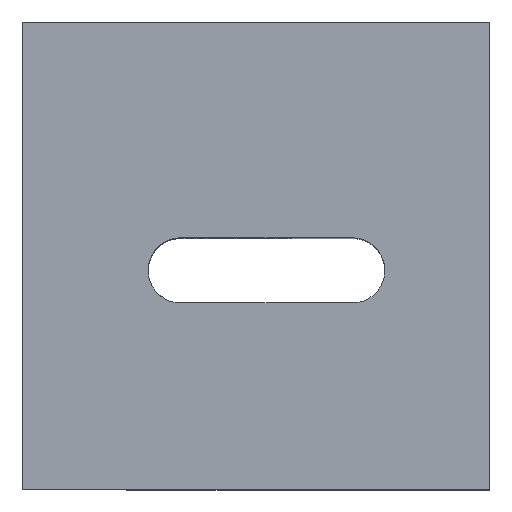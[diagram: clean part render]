
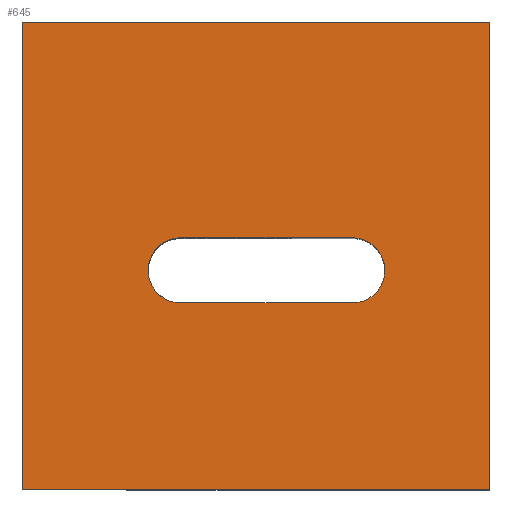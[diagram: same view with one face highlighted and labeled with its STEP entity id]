
A CAD part, top view. The second image highlights one B-rep face of the part: STEP entity #645.
In plain terms, the highlighted planar face has unit normal (0, 0, 1).
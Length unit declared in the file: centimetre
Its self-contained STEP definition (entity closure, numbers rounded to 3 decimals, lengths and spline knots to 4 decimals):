
#16 = VERTEX_POINT ( 'NONE', #240 ) ;
#29 = EDGE_CURVE ( 'NONE', #979, #16, #953, .T. ) ;
#46 = EDGE_LOOP ( 'NONE', ( #557, #728, #747, #228 ) ) ;
#50 = AXIS2_PLACEMENT_3D ( 'NONE', #554, #971, #1279 ) ;
#51 = FACE_BOUND ( 'NONE', #279, .T. ) ;
#66 = DIRECTION ( 'NONE',  ( -1., 0., 0. ) ) ;
#99 = LINE ( 'NONE', #404, #441 ) ;
#115 = VERTEX_POINT ( 'NONE', #834 ) ;
#143 = DIRECTION ( 'NONE',  ( 1., 0., 0. ) ) ;
#149 = CARTESIAN_POINT ( 'NONE',  ( 338.8759, 398.5396, 1000. ) ) ;
#157 = VECTOR ( 'NONE', #1274, 100. ) ;
#162 = DIRECTION ( 'NONE',  ( 0., 0., 1. ) ) ;
#176 = CARTESIAN_POINT ( 'NONE',  ( 706.0866, 398.5396, 1000. ) ) ;
#210 = CIRCLE ( 'NONE', #504, 69.8492 ) ;
#226 = EDGE_CURVE ( 'NONE', #851, #115, #637, .T. ) ;
#228 = ORIENTED_EDGE ( 'NONE', *, *, #226, .T. ) ;
#240 = CARTESIAN_POINT ( 'NONE',  ( 1000., 0., 1000. ) ) ;
#279 = EDGE_LOOP ( 'NONE', ( #361, #1135, #735, #895, #1247 ) ) ;
#308 = VECTOR ( 'NONE', #810, 100. ) ;
#312 = VECTOR ( 'NONE', #375, 100. ) ;
#361 = ORIENTED_EDGE ( 'NONE', *, *, #701, .T. ) ;
#367 = LINE ( 'NONE', #149, #1256 ) ;
#371 = AXIS2_PLACEMENT_3D ( 'NONE', #657, #651, #143 ) ;
#375 = DIRECTION ( 'NONE',  ( 1., 0., 0. ) ) ;
#400 = CARTESIAN_POINT ( 'NONE',  ( 0., 1000., 1000. ) ) ;
#404 = CARTESIAN_POINT ( 'NONE',  ( 1000., 1000., 1000. ) ) ;
#440 = CIRCLE ( 'NONE', #50, 69.8492 ) ;
#441 = VECTOR ( 'NONE', #1007, 100. ) ;
#444 = CARTESIAN_POINT ( 'NONE',  ( 0., 0., 1000. ) ) ;
#450 = EDGE_CURVE ( 'NONE', #115, #979, #1324, .T. ) ;
#481 = CIRCLE ( 'NONE', #371, 69.8492 ) ;
#504 = AXIS2_PLACEMENT_3D ( 'NONE', #1080, #974, #1289 ) ;
#506 = CARTESIAN_POINT ( 'NONE',  ( 269.0267, 468.3888, 1000. ) ) ;
#554 = CARTESIAN_POINT ( 'NONE',  ( 338.8759, 468.3888, 1000. ) ) ;
#557 = ORIENTED_EDGE ( 'NONE', *, *, #450, .T. ) ;
#565 = AXIS2_PLACEMENT_3D ( 'NONE', #1068, #162, #567 ) ;
#567 = DIRECTION ( 'NONE',  ( 1., 0., 0. ) ) ;
#621 = VERTEX_POINT ( 'NONE', #1064 ) ;
#637 = LINE ( 'NONE', #919, #1014 ) ;
#645 = ADVANCED_FACE ( 'NONE', ( #51, #1179 ), #671, .T. ) ;
#651 = DIRECTION ( 'NONE',  ( 0., 0., -1. ) ) ;
#653 = EDGE_CURVE ( 'NONE', #920, #1187, #210, .T. ) ;
#657 = CARTESIAN_POINT ( 'NONE',  ( 338.8759, 468.3888, 1000. ) ) ;
#671 = PLANE ( 'NONE',  #565 ) ;
#698 = EDGE_CURVE ( 'NONE', #1187, #750, #367, .T. ) ;
#701 = EDGE_CURVE ( 'NONE', #750, #1021, #440, .T. ) ;
#727 = CARTESIAN_POINT ( 'NONE',  ( 706.0866, 538.238, 1000. ) ) ;
#728 = ORIENTED_EDGE ( 'NONE', *, *, #29, .T. ) ;
#735 = ORIENTED_EDGE ( 'NONE', *, *, #1061, .T. ) ;
#747 = ORIENTED_EDGE ( 'NONE', *, *, #1011, .T. ) ;
#750 = VERTEX_POINT ( 'NONE', #958 ) ;
#789 = EDGE_CURVE ( 'NONE', #1021, #621, #481, .T. ) ;
#810 = DIRECTION ( 'NONE',  ( 0., -1., 0. ) ) ;
#834 = CARTESIAN_POINT ( 'NONE',  ( 0., 1000., 1000. ) ) ;
#851 = VERTEX_POINT ( 'NONE', #1102 ) ;
#881 = LINE ( 'NONE', #1299, #312 ) ;
#895 = ORIENTED_EDGE ( 'NONE', *, *, #653, .T. ) ;
#908 = CARTESIAN_POINT ( 'NONE',  ( 0., 0., 1000. ) ) ;
#919 = CARTESIAN_POINT ( 'NONE',  ( 0., 1000., 1000. ) ) ;
#920 = VERTEX_POINT ( 'NONE', #727 ) ;
#953 = LINE ( 'NONE', #444, #157 ) ;
#958 = CARTESIAN_POINT ( 'NONE',  ( 338.8759, 398.5396, 1000. ) ) ;
#971 = DIRECTION ( 'NONE',  ( 0., 0., -1. ) ) ;
#974 = DIRECTION ( 'NONE',  ( 0., 0., -1. ) ) ;
#979 = VERTEX_POINT ( 'NONE', #908 ) ;
#1007 = DIRECTION ( 'NONE',  ( 0., 1., 0. ) ) ;
#1011 = EDGE_CURVE ( 'NONE', #16, #851, #99, .T. ) ;
#1014 = VECTOR ( 'NONE', #1043, 100. ) ;
#1021 = VERTEX_POINT ( 'NONE', #506 ) ;
#1043 = DIRECTION ( 'NONE',  ( -1., 0., 0. ) ) ;
#1061 = EDGE_CURVE ( 'NONE', #621, #920, #881, .T. ) ;
#1064 = CARTESIAN_POINT ( 'NONE',  ( 338.8759, 538.238, 1000. ) ) ;
#1068 = CARTESIAN_POINT ( 'NONE',  ( 0., 0., 1000. ) ) ;
#1080 = CARTESIAN_POINT ( 'NONE',  ( 706.0866, 468.3888, 1000. ) ) ;
#1102 = CARTESIAN_POINT ( 'NONE',  ( 1000., 1000., 1000. ) ) ;
#1135 = ORIENTED_EDGE ( 'NONE', *, *, #789, .T. ) ;
#1179 = FACE_OUTER_BOUND ( 'NONE', #46, .T. ) ;
#1187 = VERTEX_POINT ( 'NONE', #176 ) ;
#1247 = ORIENTED_EDGE ( 'NONE', *, *, #698, .T. ) ;
#1256 = VECTOR ( 'NONE', #66, 100. ) ;
#1274 = DIRECTION ( 'NONE',  ( 1., 0., 0. ) ) ;
#1279 = DIRECTION ( 'NONE',  ( 1., 0., 0. ) ) ;
#1289 = DIRECTION ( 'NONE',  ( 1., 0., 0. ) ) ;
#1299 = CARTESIAN_POINT ( 'NONE',  ( 706.0866, 538.238, 1000. ) ) ;
#1324 = LINE ( 'NONE', #400, #308 ) ;
